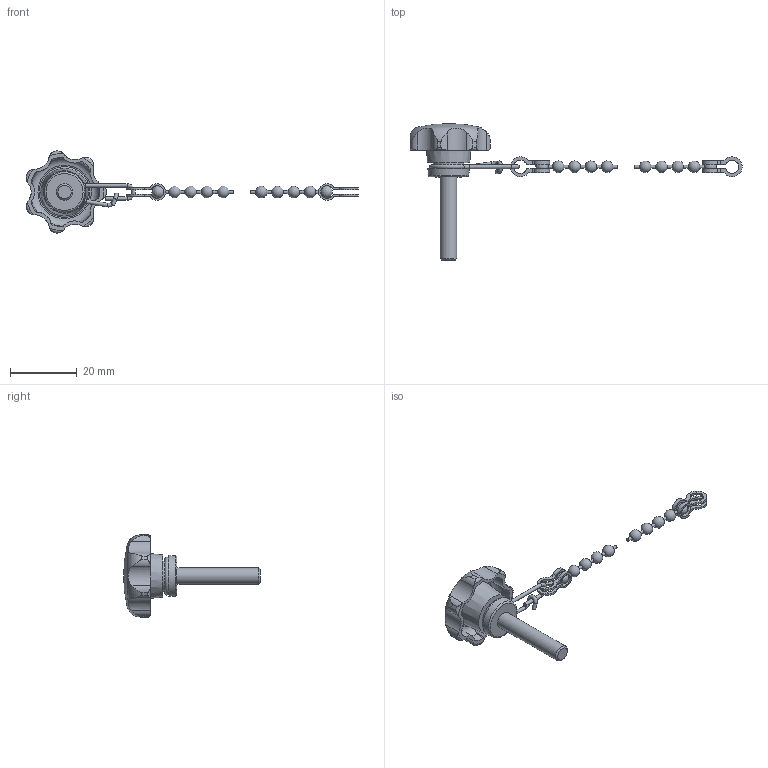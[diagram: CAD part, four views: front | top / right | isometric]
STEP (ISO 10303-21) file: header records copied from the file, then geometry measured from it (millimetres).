
FILE_DESCRIPTION( ( 'STEP AP203' ), '1' );
FILE_NAME( 'C:/Temp/Ganter_Step_05_03_2020/data/2_2/gn_6336_13/gn_6336_13_2/Star knob GN 6336.13-25-M5-25-K.stp', '2020-03-05T12:12:06', ( 'License CC BY-ND 4.0' ), ( 'CADENAS' ), ' ', 'PARTsolutions', ' ' );
FILE_SCHEMA( ( 'CONFIG_CONTROL_DESIGN' ) );
Length unit declared in the file: millimetre
Products named in the file (3): Star knob GN 6336.13-25-M5-25-K; _Star knob GN 6336.13-25-M5-25-K 6; _Star knob GN 111.5-200-14 k2
Assembly tree (2 placements, depth 2):
  Star knob GN 6336.13-25-M5-25-K
    _Star knob GN 6336.13-25-M5-25-K 6
    _Star knob GN 111.5-200-14 k2
Bounding box: 99.5 x 41 x 24.58 mm (x, y, z)
Volume: 3877 mm3; surface area: 3575.9 mm2
Topology: 2 solids, 2 shells, 169 faces, 488 edges, 315 vertices
Faces by surface type: cylinder 101, plane 28, torus 18, cone 11, sphere 11
Full cylindrical faces by diameter (mm): 0.9 x10, 1.1 x6, 5 x1, 9.1 x1
Entity records: 6044 total; most frequent: CARTESIAN_POINT 1785, DIRECTION 880, ORIENTED_EDGE 840, EDGE_CURVE 420, AXIS2_PLACEMENT_3D 379, VERTEX_POINT 300, EDGE_LOOP 221, CIRCLE 207
